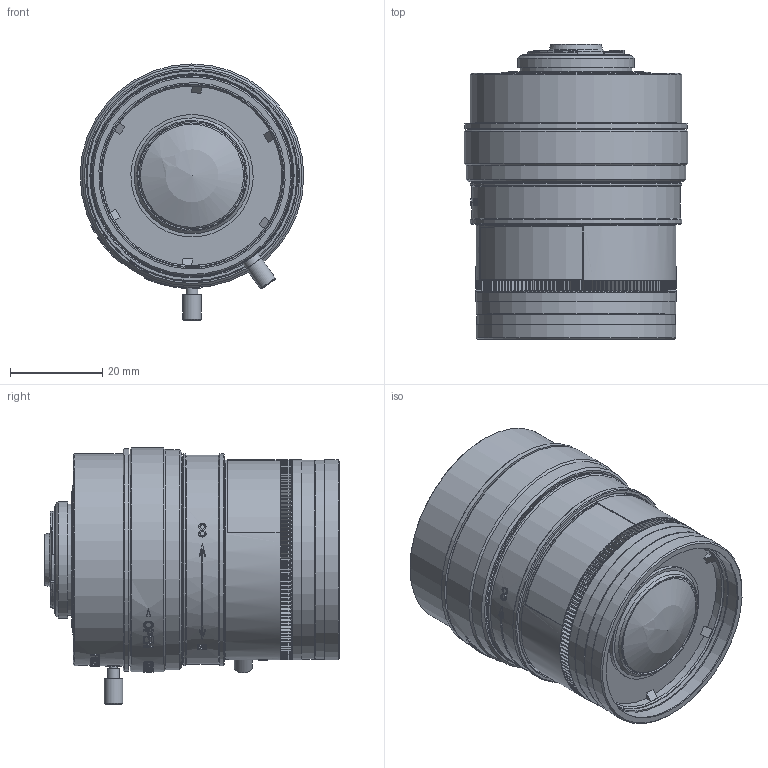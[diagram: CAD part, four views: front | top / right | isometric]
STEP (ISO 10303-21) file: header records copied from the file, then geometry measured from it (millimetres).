
FILE_DESCRIPTION(('LS-ZML-0002'),'2;1');
FILE_NAME('LS-ZML-0002.stp','2026-10-15T21:57:20',('LumaSpec Vision'),('LumaSpec Vision'),'LumaSpec Vision','LumaSpec Vision','');
FILE_SCHEMA(('AUTOMOTIVE_DESIGN { 1 0 10303 214 1 1 1 1 }'));
Length unit declared in the file: millimetre
Products named in the file (29): LS-ZML-0002
Assembly tree (28 placements, depth 2):
  LS-ZML-0002
    (unnamed)
    (unnamed)
    (unnamed)
    (unnamed)
    (unnamed)
    (unnamed)
    (unnamed)
    (unnamed)
    (unnamed)
    (unnamed)
    (unnamed)
    (unnamed)
    (unnamed)
    (unnamed)
    (unnamed)
    (unnamed)
    (unnamed)
    (unnamed)
    (unnamed)
    (unnamed)
    (unnamed)
    (unnamed)
    (unnamed)
    (unnamed)
    (unnamed)
    (unnamed)
    (unnamed)
    (unnamed)
Bounding box: 48.6 x 64.08 x 55.64 mm (x, y, z)
Volume: 18713.8 mm3; surface area: 38826.4 mm2
Topology: 28 solids, 28 shells, 2710 faces, 7718 edges, 5131 vertices
Faces by surface type: plane 1615, cylinder 627, cone 363, bspline 103, sphere 2
Full cylindrical faces by diameter (mm): 1.4 x2, 1.567 x2, 1.6 x1, 2 x2, 2.6 x1, 3.3 x1, 4 x3, 9.5 x1, 10.5 x1, 14.4 x1, 21 x1, 21.1 x2, 21.546 x1, 23 x1, 23.4 x1, 24.3 x1, 25.4 x1, 26.6 x1, 30 x1, 30.3 x1, 32.3 x1, 39 x1, 39.1 x1, 39.9 x1, 40.5 x2, 41 x1, 41.5 x4, 42.1 x2, 42.2 x1, 42.6 x1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
Entity records: 204310 total; most frequent: CARTESIAN_POINT 56241, DIRECTION 26011, ORIENTED_EDGE 15430, PCURVE 15430, DEFINITIONAL_REPRESENTATION 15430, LINE 15230, VECTOR 15230, EDGE_CURVE 7715
